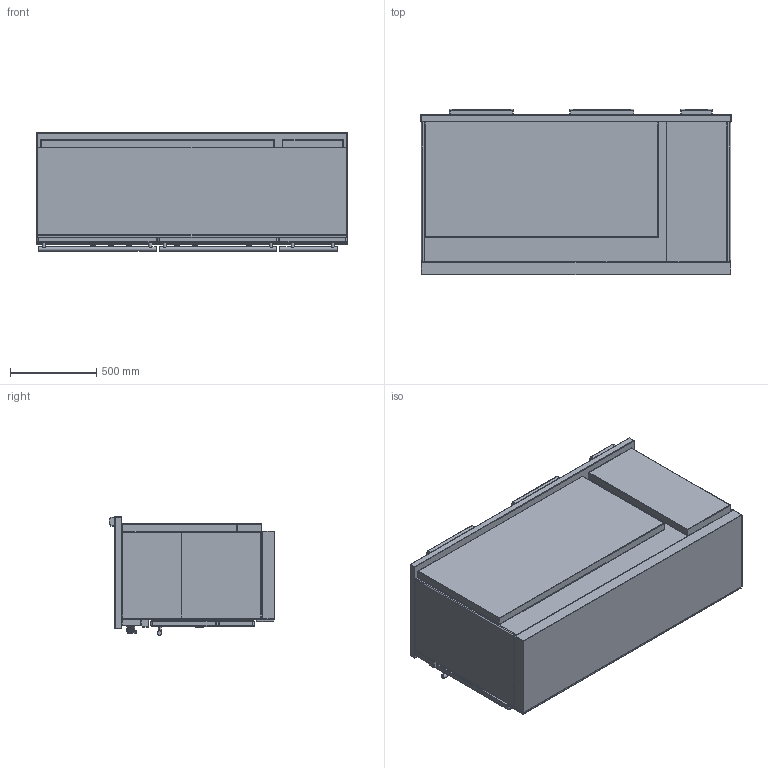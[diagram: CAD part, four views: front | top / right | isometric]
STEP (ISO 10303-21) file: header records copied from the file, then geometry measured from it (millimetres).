
FILE_DESCRIPTION((''),'2;1');
FILE_NAME('LMVTR1842G_ASM','2022-04-13T11:56:14',('stagiaire'),(''),'CREO PARAMETRIC BY PTC INC, 2021424','CREO PARAMETRIC BY PTC INC, 2021424','');
FILE_SCHEMA(('AP203_CONFIGURATION_CONTROLLED_3D_DESIGN_OF_MECHANICAL_PARTS_AND_ASSEMBLIES_MIM_LF { 1 0 10303 403 2 1 2 }'));
Products named in the file (13): BASE_EXPORT_SULLY_LMVTR1842G; 65064012; 19150009; 88064012_ASM; 65049009; 65650001; BASE_EXPORT_SULLY_LMVTR1842G_ASM; TABLE_SULLY_1805G_INDUCTION_VTR; 65052002; CHEMINEE_2020_LG182_EXPORT_STEP; CHEMINEE_2020_LG371_EXPORT_STEP; TABLE_SULLY_1805G_VTR_ASM; LMVTR1842G_ASM
Assembly tree (18 placements, depth 4):
  LMVTR1842G_ASM
    BASE_EXPORT_SULLY_LMVTR1842G_ASM
      BASE_EXPORT_SULLY_LMVTR1842G
      88064012_ASM  x6
        65064012
        19150009
      65049009
      65650001
    TABLE_SULLY_1805G_VTR_ASM
      TABLE_SULLY_1805G_INDUCTION_VTR
      65052002
      CHEMINEE_2020_LG182_EXPORT_STEP
      CHEMINEE_2020_LG371_EXPORT_STEP  x2
Bounding box: 1805 x 963 x 688.5 mm (x, y, z)
Volume: 662986671.1 mm3; surface area: 15442172.6 mm2
Topology: 24 solids, 24 shells, 2726 faces, 7801 edges, 4952 vertices
Faces by surface type: cylinder 1096, plane 1072, sphere 234, bspline 219, torus 73, cone 30, extrusion 2
Entity records: 64039 total; most frequent: CARTESIAN_POINT 16971, DIRECTION 8461, ORIENTED_EDGE 8148, EDGE_CURVE 4074, AXIS2_PLACEMENT_3D 2809, VECTOR 2807, LINE 2805, VERTEX_POINT 2573
